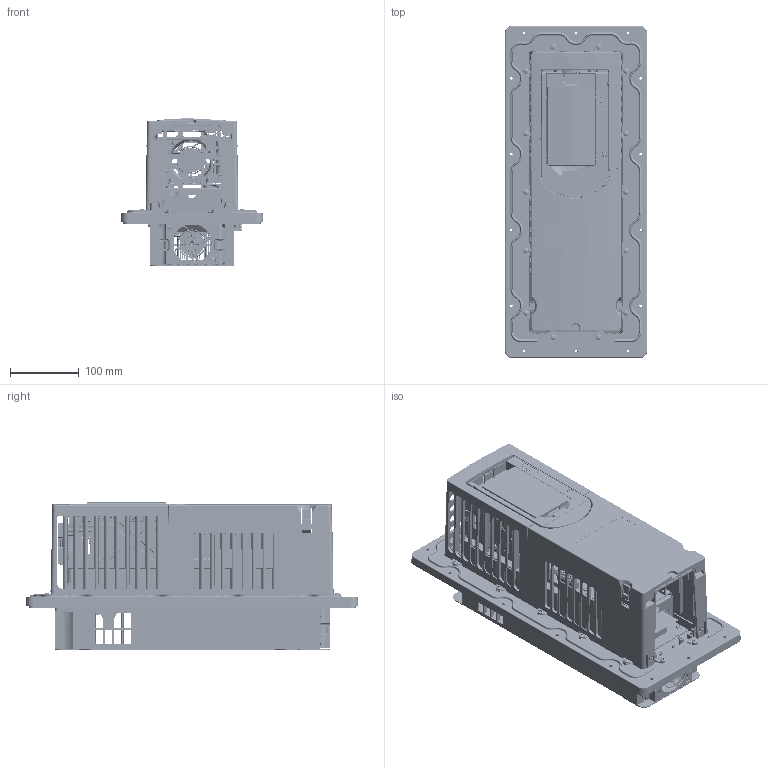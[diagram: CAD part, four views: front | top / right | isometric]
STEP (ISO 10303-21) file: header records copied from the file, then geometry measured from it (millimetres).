
FILE_DESCRIPTION((''),'2;1');
FILE_NAME('395241-9-F2-ASSEMBLY_ASM','2020-10-22T06:44:23',('TPS1'),('Rockwell Automation'),'CREO PARAMETRIC BY PTC INC, 2019444','CREO PARAMETRIC BY PTC INC, 2019444','');
FILE_SCHEMA(('CONFIG_CONTROL_DESIGN'));
Products named in the file (111): 394888-C-F2-BASE; 394920-C-F2-GND-PLT; PEMSTUD-M4-10; BSO-M4-12; S-M4-2; 394920_ASM; 331463; 395082_AF0; TA225-HSNGLS_AF0; NIDEC-LBL-2; FAN-NIDEC_AF0_ASM; AMP-794896-1; 327715-Q01-01; 352441-03; 60-SGL-FAN_ASM; 221704-Q14; M4X10-PANHD-FLAT-W; 327369-C-F2-POD-GND; 397766-C01-03; 395770-B01; FCI-PCI-EXPRESS-64PIN; 332567-Q08; 222404-Q08; 395775-A01_ASM; 394519-B01; 22105-132-01-00; POWER-PC; 313526-CAT5-TOP; ENET-ROT-SWITCH; AMP-24AUX-CONN; 397793-C01; 333875-THUMB-SCREW; 397793-C01_ASM; FAN-CONNECTOR; 353033-C01; 353033-C01_ASM; 221003-Q06; 94405501-LED; R2-CAP-3RD-CLIP; R2-CAP-3RD-CLIP1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
Assembly tree (216 placements, depth 5):
  395241-9-F2-ASSEMBLY_ASM
    394888-C-F2-BASE
    394920_ASM
      394920-C-F2-GND-PLT
      PEMSTUD-M4-10  x2
      BSO-M4-12  x2
      S-M4-2  x2
    331463
    60-SGL-FAN_ASM
      395082_AF0
      FAN-NIDEC_AF0_ASM
        TA225-HSNGLS_AF0
        NIDEC-LBL-2
      AMP-794896-1
      327715-Q01-01
      352441-03
    221704-Q14  x18
    M4X10-PANHD-FLAT-W  x21
    327369-C-F2-POD-GND
    POD-R1-2COVER_ASM
      397766-C01-03
      395775-A01_ASM  x2
        395770-B01
        FCI-PCI-EXPRESS-64PIN
        332567-Q08
        222404-Q08
      394530-A01_ASM
        394519-B01
        22105-132-01-00
        POWER-PC
        313526-CAT5-TOP
        ENET-ROT-SWITCH  x3
        AMP-24AUX-CONN
        397793-C01_ASM  x2
          397793-C01
          333875-THUMB-SCREW
        FAN-CONNECTOR
        353033-C01_ASM
          353033-C01
          333875-THUMB-SCREW
        221003-Q06  x3
        94405501-LED  x4
        R2-CAP-3RD-CLIP
        R2-CAP-3RD-CLIP1
        R2-CAP-BLOCK  x6
        346673-Q01
        R2-SFTY-JUMP  x2
      397771-C01
      RHINO-HIM-BEZEL-PCB_ASM
        RHINO-HIM-BEZEL-PCB
        194131-26PIN-PLUG
        307767-Q02  x2
        R-HIM-BEZ-CBL-1
        3-641237-5-TYCO-PLUG
      333875-THUMB-SCREW
    364190
    326658-C-F2-T1-CHASIS
    384323-C01
    394970
    395038-C-R2-3-HTSNK
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Bounding box: 206.19 x 481.8 x 213.82 mm (x, y, z)
Volume: 2807255.3 mm3; surface area: 2156375.7 mm2
Topology: 214 solids, 214 shells, 28512 faces, 73270 edges, 46427 vertices
Faces by surface type: plane 16526, cylinder 6262, bspline 2372, cone 1348, torus 1276, extrusion 416, sphere 304, revolution 8
Entity records: 691412 total; most frequent: CARTESIAN_POINT 218060, ORIENTED_EDGE 102178, DIRECTION 91908, EDGE_CURVE 51089, VERTEX_POINT 32313, VECTOR 32144, LINE 31737, AXIS2_PLACEMENT_3D 29878
